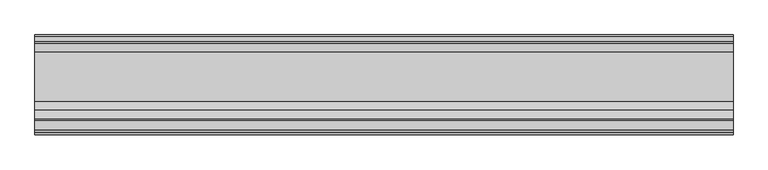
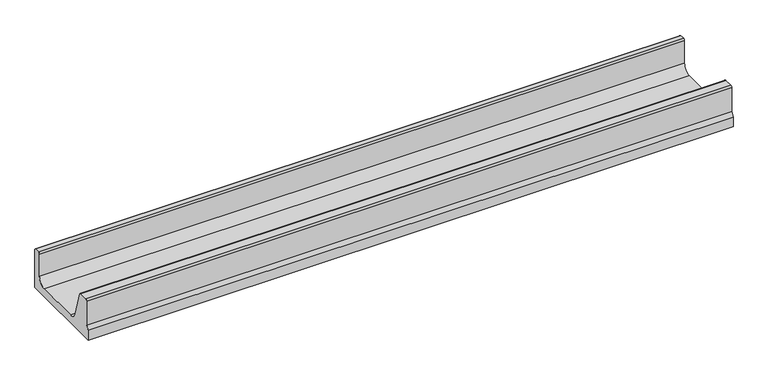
"""IFC4 building model written with IfcOpenShell, lengths in millimetres: proxy geometry, Muestra 1.96m RS941 : Muestra 1.96m RS941."""

from ifc_helpers import new_model, si_unit, point, frame, frame_2d, origin, place, context, project, spatial, polyline, circle_curve, trimmed, segment, composite_curve, outline, extrude, source, transform, mapped, element, save


def generic_models_51e0f152(model_context):
    return source(origin(), model_context, "Body", "SweptSolid", [
        extrude(outline(composite_curve([segment(polyline([(-160.3855439, 0.0), (-160.3855439, 32.0012714), (-153.3855436, 44.0), (-153.3855436, 121.0)]), True, "CONTINUOUS"), segment(trimmed(circle_curve(frame_2d((-148.3855436, 121.0)), 5.0), [point((-153.3855436, 121.0))], [point((-148.3855436, 126.0))], False, "CARTESIAN"), True, "CONTINUOUS"), segment(polyline([(-148.3855436, 126.0), (-122.0578455, 126.0)]), True, "CONTINUOUS"), segment(trimmed(circle_curve(frame_2d((-122.0450483, 121.0174239)), 4.9825925), [point((-122.0578455, 126.0))], [point((-117.2868628, 122.4959025))], False, "CARTESIAN"), True, "CONTINUOUS"), segment(polyline([(-117.2868628, 122.4959025), (-92.211227, 42.5204875)]), True, "CONTINUOUS"), segment(trimmed(circle_curve(frame_2d((-68.5423508, 49.7467022)), 24.7474015), [point((-92.211227, 42.5204875))], [point((-68.3563136, 25.0))], True, "CARTESIAN"), True, "CONTINUOUS"), segment(polyline([(-68.3563136, 25.0), (70.5648946, 25.0)]), True, "CONTINUOUS"), segment(trimmed(circle_curve(frame_2d((70.6748279, 49.9398968)), 24.9401391), [point((70.5648946, 25.0))], [point((95.6148946, 50.0))], True, "CARTESIAN"), True, "CONTINUOUS"), segment(polyline([(95.6148946, 50.0), (95.6148946, 121.221769)]), True, "CONTINUOUS"), segment(trimmed(circle_curve(frame_2d((100.6071408, 121.0029619)), 4.9970389), [point((95.6148946, 121.221769))], [point((100.609974, 126.0))], False, "CARTESIAN"), True, "CONTINUOUS"), segment(polyline([(100.609974, 126.0), (114.6148946, 126.0)]), True, "CONTINUOUS"), segment(trimmed(circle_curve(frame_2d((114.6247124, 121.0098178)), 4.9901918), [point((114.6148946, 126.0))], [point((119.6148946, 121.0))], False, "CARTESIAN"), True, "CONTINUOUS"), segment(polyline([(119.6148946, 121.0), (119.6148946, 0.0), (-160.3855439, 0.0)]), True, "CONTINUOUS")], self_intersect=False)), frame((165352.1887413, 0.0, 0.0), z_axis=(1.0, 0.0, 0.0), x_axis=(0.0, 1.0, 0.0)), (0.0, 0.0, 1.0), 1960.0),
    ])


if __name__ == "__main__":
    model = new_model("IFC4")
    model_context = context("Model", 3, world=origin())
    ifc_project = project(units=[si_unit("LENGTHUNIT", "METRE", prefix="MILLI")], contexts=[model_context])
    site = spatial("IfcSite", under=ifc_project)
    building = spatial("IfcBuilding", under=site)
    placement = place(None, origin())
    generic_models_shape = generic_models_51e0f152(model_context)
    element("IfcBuildingElementProxy", 1, Name="Muestra 1.96m RS941 : Muestra 1.96m RS941", ObjectType="Muestra 1.96m RS941 : Muestra 1.96m RS941", at=placement, inside=building, context=model_context, shape_type="MappedRepresentation", body=[
        mapped(generic_models_shape, transform((0.0, 0.0, 0.0), x_axis=(1.0, 0.0, 0.0), y_axis=(0.0, 1.0, 0.0), z_axis=(0.0, 0.0, 1.0))),
    ])
    save(model, "model.ifc")
